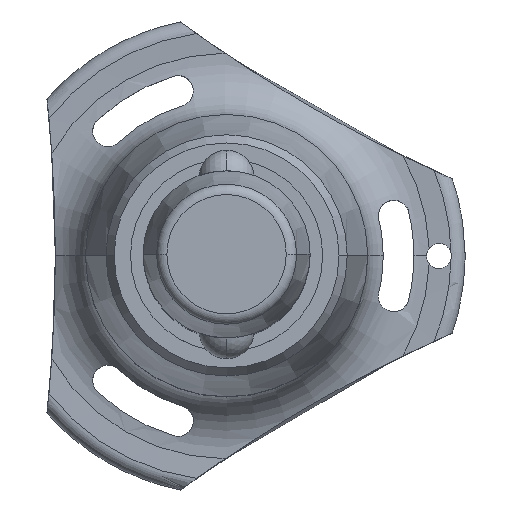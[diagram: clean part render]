
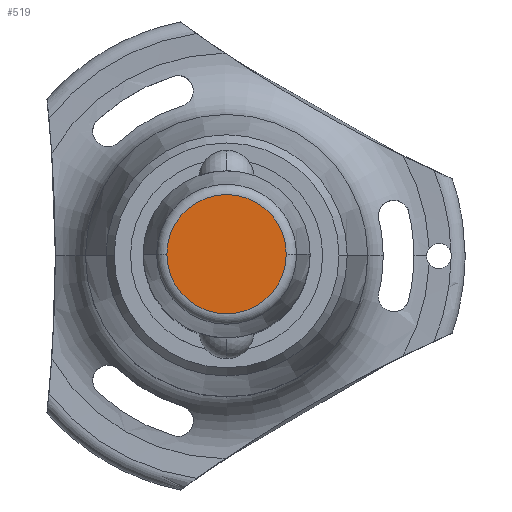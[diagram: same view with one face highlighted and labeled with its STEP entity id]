
A CAD part, top view. The second image highlights one B-rep face of the part: STEP entity #519.
In plain terms, the highlighted planar face has unit normal (0, 0, 1).
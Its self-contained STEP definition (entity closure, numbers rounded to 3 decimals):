
#87 = DIRECTION ( 'NONE',  ( 1., 0., 0. ) ) ;
#203 = AXIS2_PLACEMENT_3D ( 'NONE', #561, #2254, #87 ) ;
#332 = DIRECTION ( 'NONE',  ( 0., 0., 1. ) ) ;
#519 = ADVANCED_FACE ( 'NONE', ( #1390 ), #1435, .T. ) ;
#555 = VERTEX_POINT ( 'NONE', #2534 ) ;
#561 = CARTESIAN_POINT ( 'NONE',  ( 0., 0., 20.5 ) ) ;
#699 = VERTEX_POINT ( 'NONE', #1711 ) ;
#792 = EDGE_CURVE ( 'NONE', #699, #555, #1499, .T. ) ;
#873 = DIRECTION ( 'NONE',  ( 0., 0., 1. ) ) ;
#942 = EDGE_CURVE ( 'NONE', #555, #699, #1322, .T. ) ;
#1133 = AXIS2_PLACEMENT_3D ( 'NONE', #1851, #873, #2696 ) ;
#1255 = EDGE_LOOP ( 'NONE', ( #2169, #2778 ) ) ;
#1322 = CIRCLE ( 'NONE', #2654, 7.144 ) ;
#1390 = FACE_OUTER_BOUND ( 'NONE', #1255, .T. ) ;
#1435 = PLANE ( 'NONE',  #203 ) ;
#1499 = CIRCLE ( 'NONE', #1133, 7.144 ) ;
#1711 = CARTESIAN_POINT ( 'NONE',  ( 7.144, 0., 20.5 ) ) ;
#1850 = DIRECTION ( 'NONE',  ( 1., 0., 0. ) ) ;
#1851 = CARTESIAN_POINT ( 'NONE',  ( 0., 0., 20.5 ) ) ;
#2112 = CARTESIAN_POINT ( 'NONE',  ( 0., 0., 20.5 ) ) ;
#2169 = ORIENTED_EDGE ( 'NONE', *, *, #792, .T. ) ;
#2254 = DIRECTION ( 'NONE',  ( 0., 0., 1. ) ) ;
#2534 = CARTESIAN_POINT ( 'NONE',  ( -7.144, 0., 20.5 ) ) ;
#2654 = AXIS2_PLACEMENT_3D ( 'NONE', #2112, #332, #1850 ) ;
#2696 = DIRECTION ( 'NONE',  ( 1., 0., 0. ) ) ;
#2778 = ORIENTED_EDGE ( 'NONE', *, *, #942, .T. ) ;
